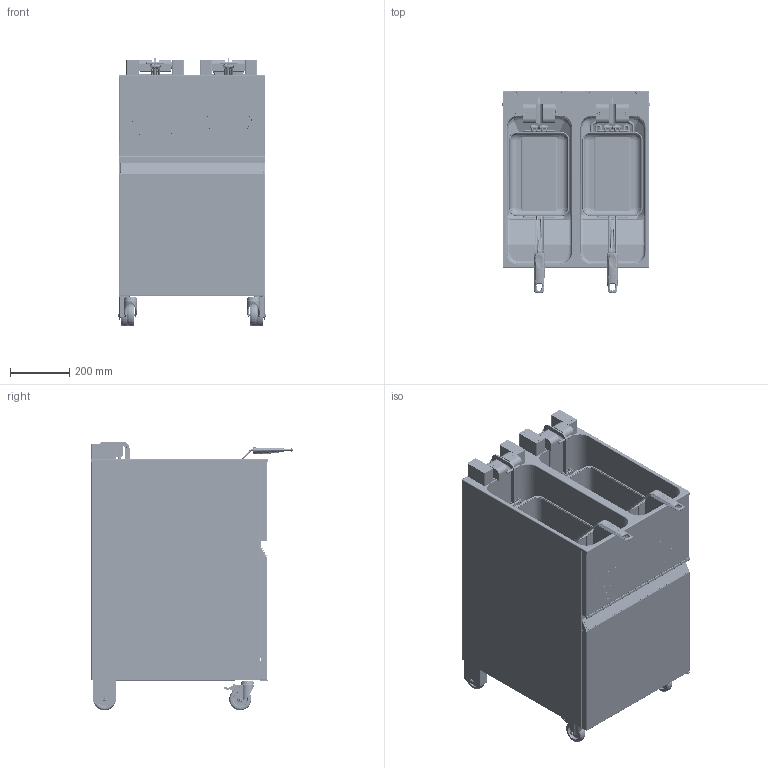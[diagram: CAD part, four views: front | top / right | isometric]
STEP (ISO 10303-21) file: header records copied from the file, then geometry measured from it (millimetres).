
FILE_DESCRIPTION(/* description */ (''),/* implementation_level */ '2;1');
FILE_NAME(/* name */ 'CORE SMART 2525',/* time_stamp */ '2025-10-22T13:19:28+02:00',/* author */ (''),/* organization */ (''),/* preprocessor_version */ 'ST-DEVELOPER v19.2',/* originating_system */ 'Rhino 8.23',/* authorisation */ '');
FILE_SCHEMA (('CONFIG_CONTROL_DESIGN'));
Products named in the file (1): Document
Bounding box: 499.8 x 684.84 x 910.4 mm (x, y, z)
Volume: 7328513 mm3; surface area: 11003046.9 mm2
Topology: 206 solids, 229 shells, 8522 faces, 21263 edges, 13257 vertices
Faces by surface type: plane 3254, cylinder 3008, bspline 2260
Full cylindrical faces by diameter (mm): 27 x2
Entity records: 464897 total; most frequent: CARTESIAN_POINT 291584, ORIENTED_EDGE 42127, EDGE_CURVE 21175, DIRECTION 20744, AXIS2_PLACEMENT_3D 13503, B_SPLINE_CURVE_WITH_KNOTS 13315, VERTEX_POINT 13257, EDGE_LOOP 9374
